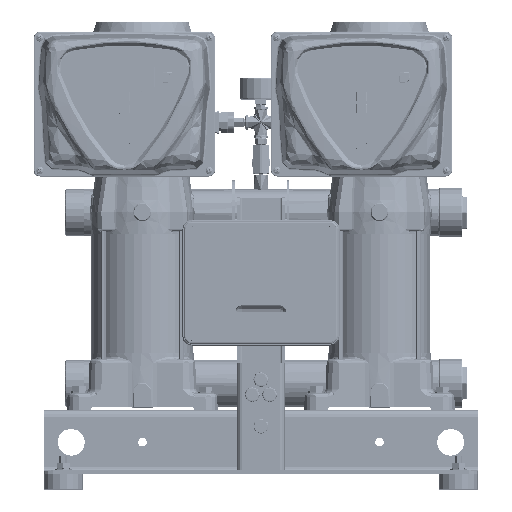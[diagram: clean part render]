
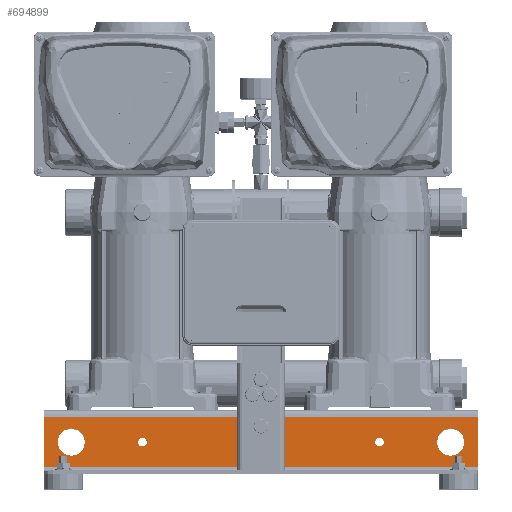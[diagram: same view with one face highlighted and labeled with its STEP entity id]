
A CAD part, top view. The second image highlights one B-rep face of the part: STEP entity #694899.
In plain terms, the highlighted planar face has unit normal (0, 0, 1) as drawn and (0, 0, -1) by its records, which use the part's own axes.
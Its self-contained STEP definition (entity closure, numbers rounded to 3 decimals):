
#688630=DIRECTION('',(1.,0.,0.));
#688631=VECTOR('',#688630,550.);
#688632=CARTESIAN_POINT('',(-275.,-8.,-150.));
#688633=LINE('',#688632,#688631);
#690860=DIRECTION('',(0.,1.,0.));
#690861=VECTOR('',#690860,64.);
#690862=CARTESIAN_POINT('',(-275.,-72.,-150.));
#690863=LINE('',#690862,#690861);
#690881=DIRECTION('',(1.,0.,0.));
#690882=VECTOR('',#690881,550.);
#690883=CARTESIAN_POINT('',(-275.,-72.,-150.));
#690884=LINE('',#690883,#690882);
#690911=DIRECTION('',(0.,1.,0.));
#690912=VECTOR('',#690911,26.);
#690913=CARTESIAN_POINT('',(-26.7,-40.,-150.));
#690914=LINE('',#690913,#690912);
#690918=DIRECTION('',(1.,0.,0.));
#690919=VECTOR('',#690918,3.6);
#690920=CARTESIAN_POINT('',(-30.3,-40.,-150.));
#690921=LINE('',#690920,#690919);
#690925=DIRECTION('',(0.,-1.,0.));
#690926=VECTOR('',#690925,26.);
#690927=CARTESIAN_POINT('',(-30.3,-14.,-150.));
#690928=LINE('',#690927,#690926);
#690932=DIRECTION('',(-1.,0.,0.));
#690933=VECTOR('',#690932,3.6);
#690934=CARTESIAN_POINT('',(-26.7,-14.,-150.));
#690935=LINE('',#690934,#690933);
#690939=DIRECTION('',(0.,1.,0.));
#690940=VECTOR('',#690939,26.);
#690941=CARTESIAN_POINT('',(30.3,-40.,-150.));
#690942=LINE('',#690941,#690940);
#690946=DIRECTION('',(1.,0.,0.));
#690947=VECTOR('',#690946,3.6);
#690948=CARTESIAN_POINT('',(26.7,-40.,-150.));
#690949=LINE('',#690948,#690947);
#690953=DIRECTION('',(0.,-1.,0.));
#690954=VECTOR('',#690953,26.);
#690955=CARTESIAN_POINT('',(26.7,-14.,-150.));
#690956=LINE('',#690955,#690954);
#690960=DIRECTION('',(-1.,0.,0.));
#690961=VECTOR('',#690960,3.6);
#690962=CARTESIAN_POINT('',(30.3,-14.,-150.));
#690963=LINE('',#690962,#690961);
#690967=CARTESIAN_POINT('',(0.,-20.,-150.));
#690968=DIRECTION('',(0.,0.,-1.));
#690969=DIRECTION('',(1.,0.,0.));
#690970=AXIS2_PLACEMENT_3D('',#690967,#690968,#690969);
#690975=CARTESIAN_POINT('',(0.,-20.,-150.));
#690976=DIRECTION('',(0.,0.,-1.));
#690977=DIRECTION('',(-1.,0.,0.));
#690978=AXIS2_PLACEMENT_3D('',#690975,#690976,#690977);
#690983=CARTESIAN_POINT('',(-240.,-40.,-150.));
#690984=DIRECTION('',(0.,0.,1.));
#690985=DIRECTION('',(-1.,0.,0.));
#690986=AXIS2_PLACEMENT_3D('',#690983,#690984,#690985);
#690991=CARTESIAN_POINT('',(-240.,-40.,-150.));
#690992=DIRECTION('',(0.,0.,1.));
#690993=DIRECTION('',(1.,0.,0.));
#690994=AXIS2_PLACEMENT_3D('',#690991,#690992,#690993);
#690999=CARTESIAN_POINT('',(240.,-40.,-150.));
#691000=DIRECTION('',(0.,0.,1.));
#691001=DIRECTION('',(-1.,0.,0.));
#691002=AXIS2_PLACEMENT_3D('',#690999,#691000,#691001);
#691007=CARTESIAN_POINT('',(240.,-40.,-150.));
#691008=DIRECTION('',(0.,0.,1.));
#691009=DIRECTION('',(1.,0.,0.));
#691010=AXIS2_PLACEMENT_3D('',#691007,#691008,#691009);
#691015=CARTESIAN_POINT('',(-150.,-40.,-150.));
#691016=DIRECTION('',(0.,0.,1.));
#691017=DIRECTION('',(1.,0.,0.));
#691018=AXIS2_PLACEMENT_3D('',#691015,#691016,#691017);
#691023=CARTESIAN_POINT('',(-150.,-40.,-150.));
#691024=DIRECTION('',(0.,0.,1.));
#691025=DIRECTION('',(-1.,0.,0.));
#691026=AXIS2_PLACEMENT_3D('',#691023,#691024,#691025);
#691031=CARTESIAN_POINT('',(150.,-40.,-150.));
#691032=DIRECTION('',(0.,0.,-1.));
#691033=DIRECTION('',(-1.,0.,0.));
#691034=AXIS2_PLACEMENT_3D('',#691031,#691032,#691033);
#691039=CARTESIAN_POINT('',(150.,-40.,-150.));
#691040=DIRECTION('',(0.,0.,-1.));
#691041=DIRECTION('',(1.,0.,0.));
#691042=AXIS2_PLACEMENT_3D('',#691039,#691040,#691041);
#691061=DIRECTION('',(0.,1.,0.));
#691062=VECTOR('',#691061,64.);
#691063=CARTESIAN_POINT('',(275.,-72.,-150.));
#691064=LINE('',#691063,#691062);
#692626=CARTESIAN_POINT('',(-275.,-72.,-150.));
#692627=CARTESIAN_POINT('',(-275.,-8.,-150.));
#692628=VERTEX_POINT('',#692626);
#692629=VERTEX_POINT('',#692627);
#692630=CARTESIAN_POINT('',(275.,-72.,-150.));
#692631=CARTESIAN_POINT('',(275.,-8.,-150.));
#692632=VERTEX_POINT('',#692630);
#692633=VERTEX_POINT('',#692631);
#692986=CARTESIAN_POINT('',(-26.7,-40.,-150.));
#692987=CARTESIAN_POINT('',(-26.7,-14.,-150.));
#692988=VERTEX_POINT('',#692986);
#692989=VERTEX_POINT('',#692987);
#692990=CARTESIAN_POINT('',(-30.3,-14.,-150.));
#692991=VERTEX_POINT('',#692990);
#692992=CARTESIAN_POINT('',(-30.3,-40.,-150.));
#692993=VERTEX_POINT('',#692992);
#692994=CARTESIAN_POINT('',(30.3,-40.,-150.));
#692995=CARTESIAN_POINT('',(30.3,-14.,-150.));
#692996=VERTEX_POINT('',#692994);
#692997=VERTEX_POINT('',#692995);
#692998=CARTESIAN_POINT('',(26.7,-14.,-150.));
#692999=VERTEX_POINT('',#692998);
#693000=CARTESIAN_POINT('',(26.7,-40.,-150.));
#693001=VERTEX_POINT('',#693000);
#693018=CARTESIAN_POINT('',(6.25,-20.,-150.));
#693019=CARTESIAN_POINT('',(-6.25,-20.,-150.));
#693020=VERTEX_POINT('',#693018);
#693021=VERTEX_POINT('',#693019);
#693042=CARTESIAN_POINT('',(-257.5,-40.,-150.));
#693043=CARTESIAN_POINT('',(-222.5,-40.,-150.));
#693044=VERTEX_POINT('',#693042);
#693045=VERTEX_POINT('',#693043);
#693046=CARTESIAN_POINT('',(222.5,-40.,-150.));
#693047=CARTESIAN_POINT('',(257.5,-40.,-150.));
#693048=VERTEX_POINT('',#693046);
#693049=VERTEX_POINT('',#693047);
#693142=CARTESIAN_POINT('',(-143.75,-40.,-150.));
#693143=CARTESIAN_POINT('',(-156.25,-40.,-150.));
#693144=VERTEX_POINT('',#693142);
#693145=VERTEX_POINT('',#693143);
#693154=CARTESIAN_POINT('',(143.75,-40.,-150.));
#693156=VERTEX_POINT('',#693154);
#693162=CARTESIAN_POINT('',(156.25,-40.,-150.));
#693164=VERTEX_POINT('',#693162);
#694837=CARTESIAN_POINT('',(-275.,-76.,-150.));
#694838=DIRECTION('',(0.,0.,-1.));
#694839=DIRECTION('',(0.,1.,0.));
#694840=AXIS2_PLACEMENT_3D('',#694837,#694838,#694839);
#694841=PLANE('',#694840);
#694842=ORIENTED_EDGE('',*,*,#694790,.F.);
#694843=ORIENTED_EDGE('',*,*,#694827,.T.);
#694845=ORIENTED_EDGE('',*,*,#694844,.T.);
#694846=ORIENTED_EDGE('',*,*,#693898,.F.);
#694847=EDGE_LOOP('',(#694842,#694843,#694845,#694846));
#694848=FACE_OUTER_BOUND('',#694847,.F.);
#694850=ORIENTED_EDGE('',*,*,#694849,.F.);
#694852=ORIENTED_EDGE('',*,*,#694851,.F.);
#694854=ORIENTED_EDGE('',*,*,#694853,.F.);
#694856=ORIENTED_EDGE('',*,*,#694855,.F.);
#694857=EDGE_LOOP('',(#694850,#694852,#694854,#694856));
#694858=FACE_BOUND('',#694857,.F.);
#694860=ORIENTED_EDGE('',*,*,#694859,.F.);
#694862=ORIENTED_EDGE('',*,*,#694861,.F.);
#694864=ORIENTED_EDGE('',*,*,#694863,.F.);
#694866=ORIENTED_EDGE('',*,*,#694865,.F.);
#694867=EDGE_LOOP('',(#694860,#694862,#694864,#694866));
#694868=FACE_BOUND('',#694867,.F.);
#694870=ORIENTED_EDGE('',*,*,#694869,.T.);
#694872=ORIENTED_EDGE('',*,*,#694871,.T.);
#694873=EDGE_LOOP('',(#694870,#694872));
#694874=FACE_BOUND('',#694873,.F.);
#694876=ORIENTED_EDGE('',*,*,#694875,.F.);
#694878=ORIENTED_EDGE('',*,*,#694877,.F.);
#694879=EDGE_LOOP('',(#694876,#694878));
#694880=FACE_BOUND('',#694879,.F.);
#694882=ORIENTED_EDGE('',*,*,#694881,.F.);
#694884=ORIENTED_EDGE('',*,*,#694883,.F.);
#694885=EDGE_LOOP('',(#694882,#694884));
#694886=FACE_BOUND('',#694885,.F.);
#694888=ORIENTED_EDGE('',*,*,#694887,.F.);
#694890=ORIENTED_EDGE('',*,*,#694889,.F.);
#694891=EDGE_LOOP('',(#694888,#694890));
#694892=FACE_BOUND('',#694891,.F.);
#694894=ORIENTED_EDGE('',*,*,#694893,.T.);
#694896=ORIENTED_EDGE('',*,*,#694895,.T.);
#694897=EDGE_LOOP('',(#694894,#694896));
#694898=FACE_BOUND('',#694897,.F.);
#690971=CIRCLE('',#690970,6.25);
#690979=CIRCLE('',#690978,6.25);
#690987=CIRCLE('',#690986,17.5);
#690995=CIRCLE('',#690994,17.5);
#691003=CIRCLE('',#691002,17.5);
#691011=CIRCLE('',#691010,17.5);
#691019=CIRCLE('',#691018,6.25);
#691027=CIRCLE('',#691026,6.25);
#691035=CIRCLE('',#691034,6.25);
#691043=CIRCLE('',#691042,6.25);
#693898=EDGE_CURVE('',#692629,#692633,#688633,.T.);
#694790=EDGE_CURVE('',#692628,#692629,#690863,.T.);
#694827=EDGE_CURVE('',#692628,#692632,#690884,.T.);
#694844=EDGE_CURVE('',#692632,#692633,#691064,.T.);
#694849=EDGE_CURVE('',#692988,#692989,#690914,.T.);
#694851=EDGE_CURVE('',#692993,#692988,#690921,.T.);
#694853=EDGE_CURVE('',#692991,#692993,#690928,.T.);
#694855=EDGE_CURVE('',#692989,#692991,#690935,.T.);
#694859=EDGE_CURVE('',#692996,#692997,#690942,.T.);
#694861=EDGE_CURVE('',#693001,#692996,#690949,.T.);
#694863=EDGE_CURVE('',#692999,#693001,#690956,.T.);
#694865=EDGE_CURVE('',#692997,#692999,#690963,.T.);
#694869=EDGE_CURVE('',#693020,#693021,#690971,.T.);
#694871=EDGE_CURVE('',#693021,#693020,#690979,.T.);
#694875=EDGE_CURVE('',#693044,#693045,#690987,.T.);
#694877=EDGE_CURVE('',#693045,#693044,#690995,.T.);
#694881=EDGE_CURVE('',#693048,#693049,#691003,.T.);
#694883=EDGE_CURVE('',#693049,#693048,#691011,.T.);
#694887=EDGE_CURVE('',#693144,#693145,#691019,.T.);
#694889=EDGE_CURVE('',#693145,#693144,#691027,.T.);
#694893=EDGE_CURVE('',#693156,#693164,#691035,.T.);
#694895=EDGE_CURVE('',#693164,#693156,#691043,.T.);
#694899=ADVANCED_FACE('',(#694848,#694858,#694868,#694874,#694880,#694886,
#694892,#694898),#694841,.T.);
